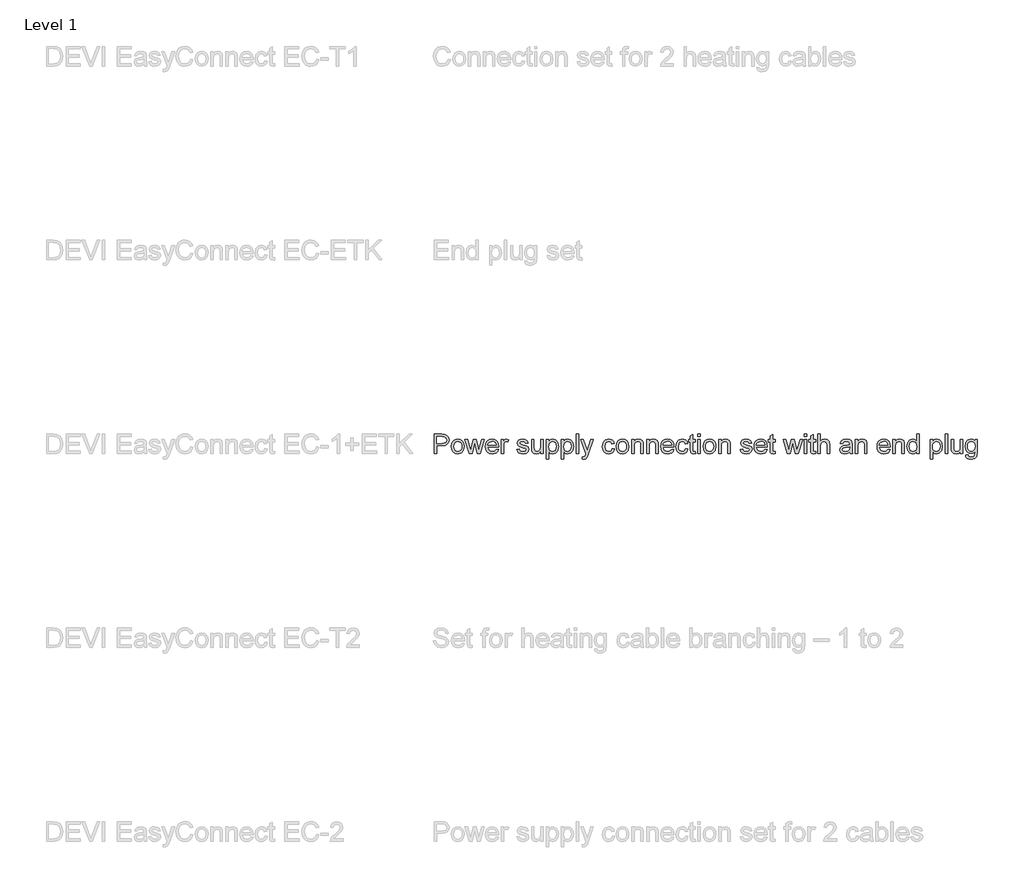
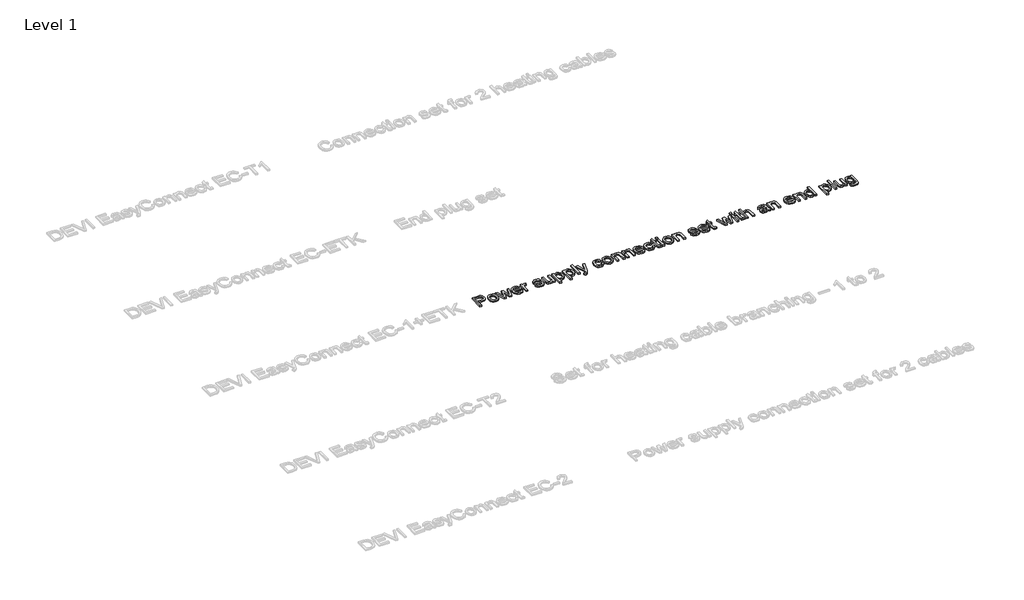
# One storey, part 7 of 11: 1 proxy.
"""IFC4 building model written with IfcOpenShell, lengths in millimetres."""

from ifc_helpers import new_model, si_unit, origin, origin_with_axes, place, context, project, spatial, polyline, outline, extrude, element, save

model = new_model("IFC4")

# Units and contexts
model_context = context("Model", 3, world=origin())
ifc_project = project(units=[si_unit("LENGTHUNIT", "METRE", prefix="MILLI")], contexts=[model_context])

# Site, building, storey
site = spatial("IfcSite", under=ifc_project)
building = spatial("IfcBuilding", under=site)
storey = spatial("IfcBuildingStorey", under=building, Name="Level 1", Elevation=0.0)

# Proxy
placement = place(None, origin())
element("IfcBuildingElementProxy", 1, Name="100mm Arial", ObjectType="100mm Arial", at=placement, inside=storey, context=model_context, shape_type="SweptSolid", body=[
    extrude(outline(polyline([(4544.9544754, 3516.7341496), (4544.9544754, 3617.1904598), (4582.1841333, 3617.1904598), (4597.1937187, 3616.2339666), (4609.3951382, 3611.5373398), (4617.3046011, 3601.8252551), (4620.296708, 3588.1277821), (4618.2764227, 3576.2881133), (4612.2155668, 3566.4227444), (4600.8817357, 3559.7640803), (4583.0425246, 3557.5445256), (4557.5115141, 3557.5445256), (4557.5115141, 3516.7341496), (4544.9544754, 3516.7341496)]), holes=[polyline([(4557.5115141, 3570.1015644), (4583.7782886, 3570.1015644), (4602.2704902, 3574.712352), (4606.3723745, 3580.2612388), (4607.7396692, 3587.6863237), (4604.5145704, 3598.0851215), (4596.0410218, 3603.7750297), (4583.483983, 3604.633421), (4557.5115141, 3604.633421), (4557.5115141, 3570.1015644)])]), origin_with_axes(), (0.0, 0.0, 1.0), 10.0),
    extrude(outline(polyline([(4632.8537467, 3553.620451), (4635.5699421, 3571.4075455), (4643.7185283, 3583.9094019), (4653.7862323, 3590.0346371), (4665.840499, 3592.0763822), (4679.0321342, 3589.5901131), (4689.5688877, 3582.1313056), (4696.4758721, 3570.2885711), (4698.7782003, 3554.6505206), (4694.7069729, 3532.3078207), (4682.8489099, 3519.6649428), (4665.840499, 3515.1645198), (4652.4894482, 3517.6415919), (4641.9649575, 3525.0728082), (4635.1315494, 3537.1638631), (4632.8537467, 3553.620451)]), holes=[polyline([(4645.4107855, 3553.6449765), (4646.8639194, 3542.2804885), (4651.223321, 3534.1840189), (4657.7838833, 3529.3371736), (4665.840499, 3527.7215585), (4673.8603265, 3529.3463707), (4680.408626, 3534.2208071), (4684.7680276, 3542.4245756), (4686.2211615, 3554.0373839), (4684.7588306, 3565.0707781), (4680.3718378, 3573.0568831), (4673.8143412, 3577.9037284), (4665.840499, 3579.5193435), (4657.7838833, 3577.9098597), (4651.223321, 3573.0814085), (4646.8639194, 3565.0033331), (4645.4107855, 3553.6449765)])]), origin_with_axes(), (0.0, 0.0, 1.0), 10.0),
    extrude(outline(polyline([(4725.1430766, 3516.7341496), (4702.7022749, 3590.5067524), (4715.749823, 3590.5067524), (4728.47854, 3547.4645589), (4732.2799873, 3532.0870915), (4735.3947215, 3546.9004732), (4745.5237391, 3590.5067524), (4760.4842736, 3590.5067524), (4770.5642403, 3547.0231005), (4773.335618, 3533.6076705), (4777.3087435, 3547.7588645), (4790.061986, 3590.5067524), (4803.158585, 3590.5067524), (4780.5461051, 3516.7341496), (4765.3648414, 3516.7341496), (4755.7263331, 3559.9970722), (4752.93043, 3573.4860787), (4740.4960185, 3516.7341496), (4725.1430766, 3516.7341496)])), origin_with_axes(), (0.0, 0.0, 1.0), 10.0),
    extrude(outline(polyline([(4863.4421813, 3538.7089675), (4875.7539654, 3537.1393376), (4871.3179217, 3527.86258), (4864.239259, 3520.9280044), (4854.6773928, 3516.6053909), (4842.7917387, 3515.1645198), (4828.0580647, 3517.6507889), (4816.7211679, 3525.1095964), (4809.4922867, 3537.0565642), (4807.0826597, 3553.0073143), (4809.5168122, 3569.4945591), (4816.8192698, 3581.8247373), (4828.0028824, 3589.513471), (4842.0805001, 3592.0763822), (4855.7197251, 3589.5196024), (4866.6182292, 3581.8492628), (4873.764337, 3569.54361), (4876.1463729, 3553.0808907), (4876.0727965, 3549.6963764), (4819.6396984, 3549.6963764), (4821.8132679, 3540.2969914), (4826.8624483, 3533.3869413), (4834.1495774, 3529.1379042), (4843.0369933, 3527.7215585), (4855.3487774, 3530.3457834), (4863.4421813, 3538.7089675)]), holes=[polyline([(4819.6396984, 3562.2534151), (4863.5893341, 3562.2534151), (4858.5616135, 3573.6332315), (4851.2407618, 3578.0478155), (4842.0314492, 3579.5193435), (4826.5681427, 3574.8227166), (4821.7029033, 3569.3320779), (4819.6396984, 3562.2534151)])]), origin_with_axes(), (0.0, 0.0, 1.0), 10.0),
    extrude(outline(polyline([(4888.7034116, 3516.7341496), (4888.7034116, 3590.5067524), (4899.6908206, 3590.5067524), (4899.6908206, 3579.5929199), (4907.4899189, 3589.6483611), (4915.3380681, 3592.0763822), (4927.9441578, 3588.2013585), (4923.7503031, 3576.9441695), (4914.9211352, 3579.5193435), (4907.8210127, 3577.0422714), (4903.2960641, 3570.1751408), (4901.2604504, 3555.5089119), (4901.2604504, 3516.7341496), (4888.7034116, 3516.7341496)])), origin_with_axes(), (0.0, 0.0, 1.0), 10.0),
    extrude(outline(polyline([(4970.3241636, 3538.7089675), (4982.8812024, 3540.2785973), (4988.6937379, 3530.9589201), (5002.0110662, 3527.7215585), (5014.8133596, 3530.68914), (5018.9826889, 3537.6543724), (5014.7888341, 3543.2952297), (5001.8639134, 3546.8759477), (4982.9547788, 3553.0195771), (4974.7019594, 3560.193276), (4971.8937935, 3570.3222936), (4974.1501364, 3579.678759), (4980.3060284, 3586.8279324), (4988.2890677, 3590.5435406), (4999.0925357, 3592.0763822), (5014.3719012, 3589.6115729), (5024.0839859, 3582.940646), (5028.400468, 3571.6711942), (5015.8434292, 3570.1015644), (5011.1222769, 3577.0300086), (5000.0735543, 3579.5193435), (4988.0560758, 3577.1403732), (4984.4508323, 3571.5976178), (4985.9468857, 3567.9433233), (4990.6312498, 3565.1719456), (5001.4469804, 3562.4986698), (5019.8778684, 3556.5880324), (5028.4372562, 3549.8925801), (5031.5397276, 3538.9787476), (5027.8976959, 3526.9612691), (5017.3885336, 3518.2424658), (5001.8393879, 3515.1645198), (4989.1781159, 3516.6483105), (4979.9381465, 3521.0996826), (4973.7699917, 3528.4695853), (4970.3241636, 3538.7089675)])), origin_with_axes(), (0.0, 0.0, 1.0), 10.0),
    extrude(outline(polyline([(5092.7552916, 3516.7341496), (5092.7552916, 3529.4138157), (5082.9205796, 3518.7268438), (5070.0937607, 3515.1645198), (5058.2847487, 3517.6661173), (5050.1422939, 3523.9446367), (5046.4021602, 3533.1907375), (5045.6663963, 3544.8648595), (5045.6663963, 3590.5067524), (5058.223435, 3590.5067524), (5058.223435, 3550.7754969), (5058.9837245, 3537.9732035), (5063.9501314, 3530.456148), (5073.3065968, 3527.7215585), (5083.7912337, 3530.5174617), (5090.7196779, 3538.132619), (5092.7552916, 3552.1243975), (5092.7552916, 3590.5067524), (5105.3123304, 3590.5067524), (5105.3123304, 3516.7341496), (5092.7552916, 3516.7341496)])), origin_with_axes(), (0.0, 0.0, 1.0), 10.0),
    extrude(outline(polyline([(5122.5782587, 3488.4808124), (5122.5782587, 3590.5067524), (5135.1352975, 3590.5067524), (5135.1352975, 3578.1949683), (5143.8173126, 3588.6060287), (5155.5404855, 3592.0763822), (5171.4575131, 3587.2203399), (5181.8563109, 3573.5351297), (5185.3634526, 3554.1845367), (5181.4025897, 3533.8406624), (5169.900146, 3519.9837739), (5154.0199066, 3515.1645198), (5143.0938113, 3518.3896186), (5135.1352975, 3526.5443361), (5135.1352975, 3488.4808124), (5122.5782587, 3488.4808124)]), holes=[polyline([(5135.1352975, 3553.0318398), (5136.4933952, 3541.7746507), (5140.5676883, 3533.9019761), (5146.5794932, 3529.2666629), (5153.7501264, 3527.7215585), (5161.0372556, 3529.3218452), (5167.2023447, 3534.1227052), (5171.4053965, 3542.2835542), (5172.8064138, 3553.9638075), (5171.439119, 3565.1596829), (5167.3372348, 3573.1427222), (5161.3346269, 3577.9251881), (5154.2651612, 3579.5193435), (5147.1681044, 3577.8240206), (5140.9355703, 3572.738052), (5136.5853657, 3564.4208532), (5135.1352975, 3553.0318398)])]), origin_with_axes(), (0.0, 0.0, 1.0), 10.0),
    extrude(outline(polyline([(5199.4901212, 3488.4808124), (5199.4901212, 3590.5067524), (5212.0471599, 3590.5067524), (5212.0471599, 3578.1949683), (5220.729175, 3588.6060287), (5232.4523479, 3592.0763822), (5248.3693756, 3587.2203399), (5258.7681733, 3573.5351297), (5262.275315, 3554.1845367), (5258.3144522, 3533.8406624), (5246.8120085, 3519.9837739), (5230.931769, 3515.1645198), (5220.0056738, 3518.3896186), (5212.0471599, 3526.5443361), (5212.0471599, 3488.4808124), (5199.4901212, 3488.4808124)]), holes=[polyline([(5212.0471599, 3553.0318398), (5213.4052576, 3541.7746507), (5217.4795507, 3533.9019761), (5223.4913557, 3529.2666629), (5230.6619889, 3527.7215585), (5237.9491181, 3529.3218452), (5244.1142072, 3534.1227052), (5248.317259, 3542.2835542), (5249.7182762, 3553.9638075), (5248.3509815, 3565.1596829), (5244.2490973, 3573.1427222), (5238.2464894, 3577.9251881), (5231.1770237, 3579.5193435), (5224.0799669, 3577.8240206), (5217.8474327, 3572.738052), (5213.4972281, 3564.4208532), (5212.0471599, 3553.0318398)])]), origin_with_axes(), (0.0, 0.0, 1.0), 10.0),
    extrude(outline(polyline([(5276.4019836, 3516.7341496), (5276.4019836, 3617.1904598), (5288.9590224, 3617.1904598), (5288.9590224, 3516.7341496), (5276.4019836, 3516.7341496)])), origin_with_axes(), (0.0, 0.0, 1.0), 10.0),
    extrude(outline(polyline([(5307.7945806, 3488.4808124), (5306.2249507, 3500.5718673), (5312.601572, 3499.4682213), (5318.5612603, 3500.8539102), (5322.2155548, 3504.7166711), (5325.6491201, 3513.9627719), (5326.6301387, 3517.0039297), (5299.9464313, 3590.5067524), (5313.1901832, 3590.5067524), (5327.3413772, 3549.5492236), (5332.270996, 3533.1662121), (5337.2006147, 3547.6362372), (5351.7442162, 3590.5067524), (5364.8898662, 3590.5067524), (5339.2117029, 3514.968316), (5332.5407761, 3498.5853045), (5325.2567126, 3489.7316112), (5315.4710515, 3486.9111825), (5307.7945806, 3488.4808124)])), origin_with_axes(), (0.0, 0.0, 1.0), 10.0),
    extrude(outline(polyline([(5461.6183055, 3543.417857), (5474.1753442, 3541.8482271), (5470.6743339, 3530.6799429), (5464.0953776, 3522.2401168), (5455.0577432, 3516.933419), (5444.1806989, 3515.1645198), (5430.8235168, 3517.6323948), (5420.3787338, 3525.03602), (5413.6372963, 3537.0504328), (5411.3901504, 3553.3506709), (5415.2283859, 3574.20958), (5426.9270333, 3587.6127473), (5444.0090206, 3592.0763822), (5454.6193505, 3590.5435406), (5463.1020962, 3585.9450156), (5469.1874775, 3578.5260621), (5472.6057144, 3568.5319345), (5460.0486756, 3566.9623047), (5454.2238774, 3576.367821), (5444.1071225, 3579.5193435), (5435.9922588, 3577.9681077), (5429.5512582, 3573.3144005), (5425.3482064, 3565.3068357), (5423.9471892, 3553.6940274), (5425.3175496, 3541.9248692), (5429.4286309, 3533.8897133), (5435.7531355, 3529.2635972), (5443.763766, 3527.7215585), (5455.5973035, 3531.5720567), (5461.6183055, 3543.417857)])), origin_with_axes(), (0.0, 0.0, 1.0), 10.0),
    extrude(outline(polyline([(5482.0234935, 3553.620451), (5484.7396889, 3571.4075455), (5492.8882751, 3583.9094019), (5502.955979, 3590.0346371), (5515.0102457, 3592.0763822), (5528.2018809, 3589.5901131), (5538.7386344, 3582.1313056), (5545.6456189, 3570.2885711), (5547.947947, 3554.6505206), (5543.8767196, 3532.3078207), (5532.0186566, 3519.6649428), (5515.0102457, 3515.1645198), (5501.659195, 3517.6415919), (5491.1347042, 3525.0728082), (5484.3012962, 3537.1638631), (5482.0234935, 3553.620451)]), holes=[polyline([(5494.5805322, 3553.6449765), (5496.0336661, 3542.2804885), (5500.3930678, 3534.1840189), (5506.95363, 3529.3371736), (5515.0102457, 3527.7215585), (5523.0300732, 3529.3463707), (5529.5783727, 3534.2208071), (5533.9377744, 3542.4245756), (5535.3909082, 3554.0373839), (5533.9285773, 3565.0707781), (5529.5415845, 3573.0568831), (5522.984088, 3577.9037284), (5515.0102457, 3579.5193435), (5506.95363, 3577.9098597), (5500.3930678, 3573.0814085), (5496.0336661, 3565.0033331), (5494.5805322, 3553.6449765)])]), origin_with_axes(), (0.0, 0.0, 1.0), 10.0),
    extrude(outline(polyline([(5562.0746156, 3516.7341496), (5562.0746156, 3590.5067524), (5574.6316544, 3590.5067524), (5574.6316544, 3580.2060565), (5584.2333745, 3589.1088008), (5597.3422362, 3592.0763822), (5609.2002992, 3589.6851493), (5617.2937031, 3583.4066299), (5621.0583622, 3574.1727918), (5621.7205498, 3562.0326859), (5621.7205498, 3516.7341496), (5609.163511, 3516.7341496), (5609.163511, 3560.3404288), (5607.7165085, 3571.450465), (5602.6029488, 3577.3243142), (5593.9822473, 3579.5193435), (5580.3583508, 3574.5897247), (5576.0633285, 3567.4466826), (5574.6316544, 3555.8767939), (5574.6316544, 3516.7341496), (5562.0746156, 3516.7341496)])), origin_with_axes(), (0.0, 0.0, 1.0), 10.0),
    extrude(outline(polyline([(5638.9864781, 3516.7341496), (5638.9864781, 3590.5067524), (5651.5435168, 3590.5067524), (5651.5435168, 3580.2060565), (5661.1452369, 3589.1088008), (5674.2540987, 3592.0763822), (5686.1121617, 3589.6851493), (5694.2055656, 3583.4066299), (5697.9702246, 3574.1727918), (5698.6324122, 3562.0326859), (5698.6324122, 3516.7341496), (5686.0753735, 3516.7341496), (5686.0753735, 3560.3404288), (5684.6283709, 3571.450465), (5679.5148112, 3577.3243142), (5670.8941098, 3579.5193435), (5657.2702132, 3574.5897247), (5652.9751909, 3567.4466826), (5651.5435168, 3555.8767939), (5651.5435168, 3516.7341496), (5638.9864781, 3516.7341496)])), origin_with_axes(), (0.0, 0.0, 1.0), 10.0),
    extrude(outline(polyline([(5767.5489727, 3538.7089675), (5779.8607568, 3537.1393376), (5775.424713, 3527.86258), (5768.3460503, 3520.9280044), (5758.7841841, 3516.6053909), (5746.89853, 3515.1645198), (5732.1648561, 3517.6507889), (5720.8279593, 3525.1095964), (5713.5990781, 3537.0565642), (5711.189451, 3553.0073143), (5713.6236035, 3569.4945591), (5720.9260611, 3581.8247373), (5732.1096738, 3589.513471), (5746.1872915, 3592.0763822), (5759.8265164, 3589.5196024), (5770.7250206, 3581.8492628), (5777.8711283, 3569.54361), (5780.2531642, 3553.0808907), (5780.1795878, 3549.6963764), (5723.7464898, 3549.6963764), (5725.9200592, 3540.2969914), (5730.9692396, 3533.3869413), (5738.2563688, 3529.1379042), (5747.1437847, 3527.7215585), (5759.4555688, 3530.3457834), (5767.5489727, 3538.7089675)]), holes=[polyline([(5723.7464898, 3562.2534151), (5767.6961255, 3562.2534151), (5762.6684049, 3573.6332315), (5755.3475532, 3578.0478155), (5746.1382405, 3579.5193435), (5730.674934, 3574.8227166), (5725.8096946, 3569.3320779), (5723.7464898, 3562.2534151)])]), origin_with_axes(), (0.0, 0.0, 1.0), 10.0),
    extrude(outline(polyline([(5839.8990984, 3543.417857), (5852.4561371, 3541.8482271), (5848.9551268, 3530.6799429), (5842.3761705, 3522.2401168), (5833.3385361, 3516.933419), (5822.4614918, 3515.1645198), (5809.1043097, 3517.6323948), (5798.6595267, 3525.03602), (5791.9180892, 3537.0504328), (5789.6709433, 3553.3506709), (5793.5091788, 3574.20958), (5805.2078262, 3587.6127473), (5822.2898135, 3592.0763822), (5832.9001434, 3590.5435406), (5841.3828891, 3585.9450156), (5847.4682704, 3578.5260621), (5850.8865073, 3568.5319345), (5838.3294685, 3566.9623047), (5832.5046703, 3576.367821), (5822.3879154, 3579.5193435), (5814.2730517, 3577.9681077), (5807.8320511, 3573.3144005), (5803.6289993, 3565.3068357), (5802.2279821, 3553.6940274), (5803.5983425, 3541.9248692), (5807.7094238, 3533.8897133), (5814.0339284, 3529.2635972), (5822.0445589, 3527.7215585), (5833.8780964, 3531.5720567), (5839.8990984, 3543.417857)])), origin_with_axes(), (0.0, 0.0, 1.0), 10.0),
    extrude(outline(polyline([(5890.1272535, 3527.2065237), (5891.6968833, 3516.3662676), (5882.3036297, 3515.1645198), (5871.7822046, 3517.2491844), (5866.5337548, 3522.7183634), (5865.0131759, 3536.9676593), (5865.0131759, 3577.9497136), (5855.5953968, 3577.9497136), (5855.5953968, 3590.5067524), (5865.0131759, 3590.5067524), (5865.0131759, 3608.4348683), (5877.5702147, 3615.8170336), (5877.5702147, 3590.5067524), (5890.1272535, 3590.5067524), (5890.1272535, 3577.9497136), (5877.5702147, 3577.9497136), (5877.5702147, 3537.3355413), (5878.2324023, 3530.8608182), (5880.3783806, 3528.5676871), (5884.6580745, 3527.7215585), (5890.1272535, 3527.2065237)])), origin_with_axes(), (0.0, 0.0, 1.0), 10.0),
    extrude(outline(polyline([(5902.6842922, 3604.633421), (5902.6842922, 3617.1904598), (5915.241331, 3617.1904598), (5915.241331, 3604.633421), (5902.6842922, 3604.633421)])), origin_with_axes(), (0.0, 0.0, 1.0), 10.0),
    extrude(outline(polyline([(5902.6842922, 3516.7341496), (5902.6842922, 3590.5067524), (5915.241331, 3590.5067524), (5915.241331, 3516.7341496), (5902.6842922, 3516.7341496)])), origin_with_axes(), (0.0, 0.0, 1.0), 10.0),
    extrude(outline(polyline([(5930.9376295, 3553.620451), (5933.6538248, 3571.4075455), (5941.802411, 3583.9094019), (5951.870115, 3590.0346371), (5963.9243817, 3592.0763822), (5977.1160169, 3589.5901131), (5987.6527704, 3582.1313056), (5994.5597548, 3570.2885711), (5996.862083, 3554.6505206), (5992.7908556, 3532.3078207), (5980.9327926, 3519.6649428), (5963.9243817, 3515.1645198), (5950.5733309, 3517.6415919), (5940.0488402, 3525.0728082), (5933.2154321, 3537.1638631), (5930.9376295, 3553.620451)]), holes=[polyline([(5943.4946682, 3553.6449765), (5944.9478021, 3542.2804885), (5949.3072037, 3534.1840189), (5955.867766, 3529.3371736), (5963.9243817, 3527.7215585), (5971.9442092, 3529.3463707), (5978.4925087, 3534.2208071), (5982.8519103, 3542.4245756), (5984.3050442, 3554.0373839), (5982.8427133, 3565.0707781), (5978.4557205, 3573.0568831), (5971.8982239, 3577.9037284), (5963.9243817, 3579.5193435), (5955.867766, 3577.9098597), (5949.3072037, 3573.0814085), (5944.9478021, 3565.0033331), (5943.4946682, 3553.6449765)])]), origin_with_axes(), (0.0, 0.0, 1.0), 10.0),
    extrude(outline(polyline([(6010.9887516, 3516.7341496), (6010.9887516, 3590.5067524), (6023.5457904, 3590.5067524), (6023.5457904, 3580.2060565), (6033.1475104, 3589.1088008), (6046.2563722, 3592.0763822), (6058.1144352, 3589.6851493), (6066.2078391, 3583.4066299), (6069.9724982, 3574.1727918), (6070.6346858, 3562.0326859), (6070.6346858, 3516.7341496), (6058.077647, 3516.7341496), (6058.077647, 3560.3404288), (6056.6306445, 3571.450465), (6051.5170847, 3577.3243142), (6042.8963833, 3579.5193435), (6029.2724868, 3574.5897247), (6024.9774645, 3567.4466826), (6023.5457904, 3555.8767939), (6023.5457904, 3516.7341496), (6010.9887516, 3516.7341496)])), origin_with_axes(), (0.0, 0.0, 1.0), 10.0),
    extrude(outline(polyline([(6122.4324707, 3538.7089675), (6134.9895094, 3540.2785973), (6140.802045, 3530.9589201), (6154.1193732, 3527.7215585), (6166.9216666, 3530.68914), (6171.0909959, 3537.6543724), (6166.8971412, 3543.2952297), (6153.9722204, 3546.8759477), (6135.0630858, 3553.0195771), (6126.8102664, 3560.193276), (6124.0021005, 3570.3222936), (6126.2584434, 3579.678759), (6132.4143355, 3586.8279324), (6140.3973748, 3590.5435406), (6151.2008427, 3592.0763822), (6166.4802082, 3589.6115729), (6176.1922929, 3582.940646), (6180.508775, 3571.6711942), (6167.9517362, 3570.1015644), (6163.2305839, 3577.0300086), (6152.1818614, 3579.5193435), (6140.1643828, 3577.1403732), (6136.5591393, 3571.5976178), (6138.0551927, 3567.9433233), (6142.7395568, 3565.1719456), (6153.5552875, 3562.4986698), (6171.9861754, 3556.5880324), (6180.5455632, 3549.8925801), (6183.6480347, 3538.9787476), (6180.0060029, 3526.9612691), (6169.4968406, 3518.2424658), (6153.9476949, 3515.1645198), (6141.2864229, 3516.6483105), (6132.0464535, 3521.0996826), (6125.8782987, 3528.4695853), (6122.4324707, 3538.7089675)])), origin_with_axes(), (0.0, 0.0, 1.0), 10.0),
    extrude(outline(polyline([(6249.4253354, 3538.7089675), (6261.7371195, 3537.1393376), (6257.3010758, 3527.86258), (6250.2224131, 3520.9280044), (6240.6605469, 3516.6053909), (6228.7748927, 3515.1645198), (6214.0412188, 3517.6507889), (6202.704322, 3525.1095964), (6195.4754408, 3537.0565642), (6193.0658137, 3553.0073143), (6195.4999663, 3569.4945591), (6202.8024239, 3581.8247373), (6213.9860365, 3589.513471), (6228.0636542, 3592.0763822), (6241.7028792, 3589.5196024), (6252.6013833, 3581.8492628), (6259.7474911, 3569.54361), (6262.129527, 3553.0808907), (6262.0559506, 3549.6963764), (6205.6228525, 3549.6963764), (6207.796422, 3540.2969914), (6212.8456024, 3533.3869413), (6220.1327315, 3529.1379042), (6229.0201474, 3527.7215585), (6241.3319315, 3530.3457834), (6249.4253354, 3538.7089675)]), holes=[polyline([(6205.6228525, 3562.2534151), (6249.5724882, 3562.2534151), (6244.5447676, 3573.6332315), (6237.2239159, 3578.0478155), (6228.0146033, 3579.5193435), (6212.5512968, 3574.8227166), (6207.6860574, 3569.3320779), (6205.6228525, 3562.2534151)])]), origin_with_axes(), (0.0, 0.0, 1.0), 10.0),
    extrude(outline(polyline([(6301.3702731, 3527.2065237), (6302.939903, 3516.3662676), (6293.5466494, 3515.1645198), (6283.0252243, 3517.2491844), (6277.7767745, 3522.7183634), (6276.2561956, 3536.9676593), (6276.2561956, 3577.9497136), (6266.8384165, 3577.9497136), (6266.8384165, 3590.5067524), (6276.2561956, 3590.5067524), (6276.2561956, 3608.4348683), (6288.8132344, 3615.8170336), (6288.8132344, 3590.5067524), (6301.3702731, 3590.5067524), (6301.3702731, 3577.9497136), (6288.8132344, 3577.9497136), (6288.8132344, 3537.3355413), (6289.475422, 3530.8608182), (6291.6214003, 3528.5676871), (6295.9010941, 3527.7215585), (6301.3702731, 3527.2065237)])), origin_with_axes(), (0.0, 0.0, 1.0), 10.0),
    extrude(outline(polyline([(6365.4062658, 3516.7341496), (6342.965464, 3590.5067524), (6356.0130121, 3590.5067524), (6368.7417292, 3547.4645589), (6372.5431765, 3532.0870915), (6375.6579107, 3546.9004732), (6385.7869283, 3590.5067524), (6400.7474628, 3590.5067524), (6410.8274294, 3547.0231005), (6413.5988071, 3533.6076705), (6417.5719327, 3547.7588645), (6430.3251752, 3590.5067524), (6443.4217742, 3590.5067524), (6420.8092942, 3516.7341496), (6405.6280306, 3516.7341496), (6395.9895223, 3559.9970722), (6393.1936191, 3573.4860787), (6380.7592077, 3516.7341496), (6365.4062658, 3516.7341496)])), origin_with_axes(), (0.0, 0.0, 1.0), 10.0),
    extrude(outline(polyline([(6452.0547384, 3604.633421), (6452.0547384, 3617.1904598), (6464.6117771, 3617.1904598), (6464.6117771, 3604.633421), (6452.0547384, 3604.633421)])), origin_with_axes(), (0.0, 0.0, 1.0), 10.0),
    extrude(outline(polyline([(6452.0547384, 3516.7341496), (6452.0547384, 3590.5067524), (6464.6117771, 3590.5067524), (6464.6117771, 3516.7341496), (6452.0547384, 3516.7341496)])), origin_with_axes(), (0.0, 0.0, 1.0), 10.0),
    extrude(outline(polyline([(6510.1310427, 3527.2065237), (6511.7006725, 3516.3662676), (6502.3074189, 3515.1645198), (6491.7859938, 3517.2491844), (6486.537544, 3522.7183634), (6485.0169651, 3536.9676593), (6485.0169651, 3577.9497136), (6475.599186, 3577.9497136), (6475.599186, 3590.5067524), (6485.0169651, 3590.5067524), (6485.0169651, 3608.4348683), (6497.5740039, 3615.8170336), (6497.5740039, 3590.5067524), (6510.1310427, 3590.5067524), (6510.1310427, 3577.9497136), (6497.5740039, 3577.9497136), (6497.5740039, 3537.3355413), (6498.2361915, 3530.8608182), (6500.3821698, 3528.5676871), (6504.6618637, 3527.7215585), (6510.1310427, 3527.2065237)])), origin_with_axes(), (0.0, 0.0, 1.0), 10.0),
    extrude(outline(polyline([(6522.6880814, 3516.7341496), (6522.6880814, 3617.1904598), (6535.2451202, 3617.1904598), (6535.2451202, 3580.2551074), (6545.0369126, 3589.1210635), (6557.0973107, 3592.0763822), (6571.1994539, 3588.8512834), (6579.7588416, 3579.9362764), (6582.3340156, 3563.4306375), (6582.3340156, 3516.7341496), (6569.7769768, 3516.7341496), (6569.7769768, 3562.1307878), (6565.7793258, 3575.3745396), (6554.4485603, 3579.5193435), (6544.1601272, 3576.7234403), (6537.2929966, 3569.1450712), (6535.2451202, 3555.9258448), (6535.2451202, 3516.7341496), (6522.6880814, 3516.7341496)])), origin_with_axes(), (0.0, 0.0, 1.0), 10.0),
    extrude(outline(polyline([(6685.9295854, 3526.1519287), (6673.7526914, 3517.6415919), (6660.3004731, 3515.1645198), (6649.8066392, 3516.6544418), (6642.0657889, 3521.1242081), (6637.29252, 3527.9116309), (6635.7014303, 3536.3545227), (6638.104926, 3546.2873366), (6644.4202336, 3553.4978237), (6653.2126133, 3557.618102), (6664.0773949, 3559.5065629), (6685.856009, 3563.823045), (6685.9295854, 3566.6189482), (6682.4714947, 3575.8895744), (6668.5900807, 3579.5193435), (6655.8858891, 3577.103585), (6649.828099, 3568.5319345), (6637.2710602, 3570.1015644), (6642.703451, 3582.3642975), (6653.641809, 3589.5502592), (6670.2087615, 3592.0763822), (6685.4268134, 3589.8445648), (6694.0229893, 3584.2404957), (6697.8734875, 3575.7178962), (6698.4866242, 3564.7304872), (6698.4866242, 3549.1077652), (6699.1242863, 3527.2923629), (6701.6258839, 3516.7341496), (6689.0688451, 3516.7341496), (6685.9295854, 3526.1519287)]), holes=[polyline([(6685.9295854, 3551.2660062), (6665.6715502, 3547.415508), (6654.8680823, 3545.3798943), (6649.9752518, 3542.0689563), (6648.2584691, 3537.2374395), (6651.9986027, 3530.4438853), (6662.9737489, 3527.7215585), (6675.6779405, 3530.7259282), (6683.8694462, 3537.9977289), (6685.856009, 3547.7098136), (6685.9295854, 3551.2660062)])]), origin_with_axes(), (0.0, 0.0, 1.0), 10.0),
    extrude(outline(polyline([(6715.7525525, 3516.7341496), (6715.7525525, 3590.5067524), (6728.3095913, 3590.5067524), (6728.3095913, 3580.2060565), (6737.9113113, 3589.1088008), (6751.0201731, 3592.0763822), (6762.8782361, 3589.6851493), (6770.97164, 3583.4066299), (6774.7362991, 3574.1727918), (6775.3984866, 3562.0326859), (6775.3984866, 3516.7341496), (6762.8414479, 3516.7341496), (6762.8414479, 3560.3404288), (6761.3944454, 3571.450465), (6756.2808856, 3577.3243142), (6747.6601842, 3579.5193435), (6734.0362877, 3574.5897247), (6729.7412654, 3567.4466826), (6728.3095913, 3555.8767939), (6728.3095913, 3516.7341496), (6715.7525525, 3516.7341496)])), origin_with_axes(), (0.0, 0.0, 1.0), 10.0),
    extrude(outline(polyline([(6883.5557932, 3538.7089675), (6895.8675773, 3537.1393376), (6891.4315336, 3527.86258), (6884.3528709, 3520.9280044), (6874.7910047, 3516.6053909), (6862.9053506, 3515.1645198), (6848.1716767, 3517.6507889), (6836.8347798, 3525.1095964), (6829.6058986, 3537.0565642), (6827.1962716, 3553.0073143), (6829.6304241, 3569.4945591), (6836.9328817, 3581.8247373), (6848.1164944, 3589.513471), (6862.194112, 3592.0763822), (6875.833337, 3589.5196024), (6886.7318411, 3581.8492628), (6893.8779489, 3569.54361), (6896.2599848, 3553.0808907), (6896.1864084, 3549.6963764), (6839.7533103, 3549.6963764), (6841.9268798, 3540.2969914), (6846.9760602, 3533.3869413), (6854.2631894, 3529.1379042), (6863.1506052, 3527.7215585), (6875.4623893, 3530.3457834), (6883.5557932, 3538.7089675)]), holes=[polyline([(6839.7533103, 3562.2534151), (6883.702946, 3562.2534151), (6878.6752254, 3573.6332315), (6871.3543737, 3578.0478155), (6862.1450611, 3579.5193435), (6846.6817546, 3574.8227166), (6841.8165152, 3569.3320779), (6839.7533103, 3562.2534151)])]), origin_with_axes(), (0.0, 0.0, 1.0), 10.0),
    extrude(outline(polyline([(6908.8170236, 3516.7341496), (6908.8170236, 3590.5067524), (6921.3740623, 3590.5067524), (6921.3740623, 3580.2060565), (6930.9757824, 3589.1088008), (6944.0846442, 3592.0763822), (6955.9427071, 3589.6851493), (6964.036111, 3583.4066299), (6967.8007701, 3574.1727918), (6968.4629577, 3562.0326859), (6968.4629577, 3516.7341496), (6955.9059189, 3516.7341496), (6955.9059189, 3560.3404288), (6954.4589164, 3571.450465), (6949.3453567, 3577.3243142), (6940.7246553, 3579.5193435), (6927.1007587, 3574.5897247), (6922.8057364, 3567.4466826), (6921.3740623, 3555.8767939), (6921.3740623, 3516.7341496), (6908.8170236, 3516.7341496)])), origin_with_axes(), (0.0, 0.0, 1.0), 10.0),
    extrude(outline(polyline([(7031.2481516, 3516.7341496), (7031.2481516, 3528.5799499), (7022.9401498, 3518.5183773), (7011.4561002, 3515.1645198), (6995.9069546, 3520.0205621), (6984.9195456, 3533.5708823), (6981.0199965, 3553.5468746), (6984.6129773, 3573.5351297), (6995.379657, 3587.2939163), (7011.4070493, 3592.0763822), (7022.9830694, 3588.6550797), (7031.2481516, 3579.7645981), (7031.2481516, 3617.1904598), (7043.8051903, 3617.1904598), (7043.8051903, 3516.7341496), (7031.2481516, 3516.7341496)]), holes=[polyline([(6993.5770353, 3553.5959255), (6994.9933809, 3542.2375689), (6999.242418, 3534.1594934), (7005.4167041, 3529.3310423), (7012.6087971, 3527.7215585), (7019.7978245, 3529.2574659), (7025.8157608, 3533.8651879), (7029.8900539, 3541.6305636), (7031.2481516, 3552.6394323), (7029.8655284, 3564.6753049), (7025.7176589, 3573.0200949), (7019.5464384, 3577.8945313), (7012.0937623, 3579.5193435), (7004.8280929, 3577.9589107), (6998.874536, 3573.2776123), (6994.9014104, 3565.236325), (6993.5770353, 3553.5959255)])]), origin_with_axes(), (0.0, 0.0, 1.0), 10.0),
    extrude(outline(polyline([(7101.8814946, 3488.4808124), (7101.8814946, 3590.5067524), (7114.4385334, 3590.5067524), (7114.4385334, 3578.1949683), (7123.1205485, 3588.6060287), (7134.8437214, 3592.0763822), (7150.7607491, 3587.2203399), (7161.1595468, 3573.5351297), (7164.6666885, 3554.1845367), (7160.7058257, 3533.8406624), (7149.2033819, 3519.9837739), (7133.3231425, 3515.1645198), (7122.3970472, 3518.3896186), (7114.4385334, 3526.5443361), (7114.4385334, 3488.4808124), (7101.8814946, 3488.4808124)]), holes=[polyline([(7114.4385334, 3553.0318398), (7115.7966311, 3541.7746507), (7119.8709242, 3533.9019761), (7125.8827291, 3529.2666629), (7133.0533624, 3527.7215585), (7140.3404915, 3529.3218452), (7146.5055806, 3534.1227052), (7150.7086324, 3542.2835542), (7152.1096497, 3553.9638075), (7150.742355, 3565.1596829), (7146.6404707, 3573.1427222), (7140.6378628, 3577.9251881), (7133.5683972, 3579.5193435), (7126.4713403, 3577.8240206), (7120.2388062, 3572.738052), (7115.8886016, 3564.4208532), (7114.4385334, 3553.0318398)])]), origin_with_axes(), (0.0, 0.0, 1.0), 10.0),
    extrude(outline(polyline([(7178.7933571, 3516.7341496), (7178.7933571, 3617.1904598), (7191.3503959, 3617.1904598), (7191.3503959, 3516.7341496), (7178.7933571, 3516.7341496)])), origin_with_axes(), (0.0, 0.0, 1.0), 10.0),
    extrude(outline(polyline([(7257.2748494, 3516.7341496), (7257.2748494, 3529.4138157), (7247.4401374, 3518.7268438), (7234.6133185, 3515.1645198), (7222.8043064, 3517.6661173), (7214.6618516, 3523.9446367), (7210.921718, 3533.1907375), (7210.185954, 3544.8648595), (7210.185954, 3590.5067524), (7222.7429928, 3590.5067524), (7222.7429928, 3550.7754969), (7223.5032822, 3537.9732035), (7228.4696892, 3530.456148), (7237.8261546, 3527.7215585), (7248.3107914, 3530.5174617), (7255.2392357, 3538.132619), (7257.2748494, 3552.1243975), (7257.2748494, 3590.5067524), (7269.8318882, 3590.5067524), (7269.8318882, 3516.7341496), (7257.2748494, 3516.7341496)])), origin_with_axes(), (0.0, 0.0, 1.0), 10.0),
    extrude(outline(polyline([(7283.9585568, 3510.4556302), (7296.5155955, 3508.8860004), (7300.586823, 3502.2641245), (7312.7759797, 3499.4682213), (7325.6273241, 3502.6320065), (7331.7586907, 3511.5102253), (7332.617082, 3526.1519287), (7323.7756514, 3519.0885944), (7312.9967089, 3516.7341496), (7300.0503284, 3519.4748705), (7290.3964917, 3527.6970331), (7284.3908181, 3539.7512998), (7282.3889269, 3553.988333), (7285.9819078, 3573.4492905), (7296.3807055, 3587.2203399), (7312.3835723, 3592.0763822), (7323.585579, 3589.32953), (7332.617082, 3581.0889733), (7332.617082, 3590.5067524), (7345.1741208, 3590.5067524), (7345.1741208, 3526.8141163), (7341.7405555, 3502.42354), (7330.8635112, 3491.0805118), (7312.5307251, 3486.9111825), (7300.847406, 3488.3796448), (7291.6472905, 3492.7850317), (7285.7458501, 3500.1396059), (7283.9585568, 3510.4556302)]), holes=[polyline([(7294.9459657, 3554.8467243), (7296.2856693, 3543.3289522), (7300.3047801, 3535.4102922), (7306.3472419, 3530.8209643), (7313.7569984, 3529.2911884), (7321.1115726, 3530.8117673), (7327.1846912, 3535.373504), (7331.2589843, 3543.1909964), (7332.617082, 3554.4788423), (7331.2191304, 3565.3650837), (7327.0252757, 3573.2040359), (7320.8632523, 3577.9405166), (7313.5607947, 3579.5193435), (7306.3901614, 3577.965042), (7300.3783565, 3573.3021377), (7296.3040634, 3565.5796815), (7294.9459657, 3554.8467243)])]), origin_with_axes(), (0.0, 0.0, 1.0), 10.0),
])

save(model, "model.ifc")
